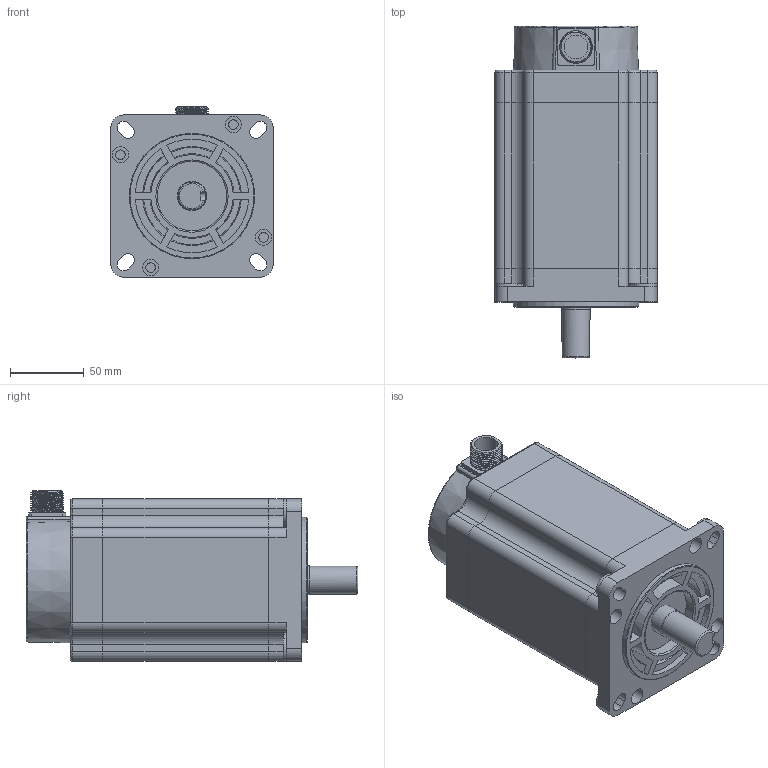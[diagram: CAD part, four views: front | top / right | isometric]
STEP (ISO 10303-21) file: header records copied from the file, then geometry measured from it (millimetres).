
FILE_DESCRIPTION(/* description */ (''),/* implementation_level */ '2;1');
FILE_NAME(/* name */ '110BYG350C(止口φ85).stp',/* time_stamp */ '2024-08-15T16:38:41+08:00',/* author */ (''),/* organization */ (''),/* preprocessor_version */ 'ST-DEVELOPER v18.1',/* originating_system */ 'SIEMENS PLM Software NX 2000',/* authorisation */ '');
FILE_SCHEMA (('AUTOMOTIVE_DESIGN { 1 0 10303 214 3 1 1 1 }'));
Length unit declared in the file: millimetre
Products named in the file (1): 925032A4A3696syj
Bounding box: 110 x 225 x 115.5 mm (x, y, z)
Volume: 1826304.2 mm3; surface area: 167966.4 mm2
Topology: 5 solids, 5 shells, 292 faces, 733 edges, 477 vertices
Faces by surface type: plane 131, cylinder 118, cone 24, torus 15, bspline 4
Full cylindrical faces by diameter (mm): 3 x4, 6 x4, 6.5 x8, 11 x4, 16 x1, 19 x1, 19.7 x1, 20 x2, 47 x1, 85 x1
Entity records: 11050 total; most frequent: CARTESIAN_POINT 4002, DIRECTION 1508, ORIENTED_EDGE 1374, EDGE_CURVE 687, AXIS2_PLACEMENT_3D 573, VERTEX_POINT 462, EDGE_LOOP 371, LINE 362
